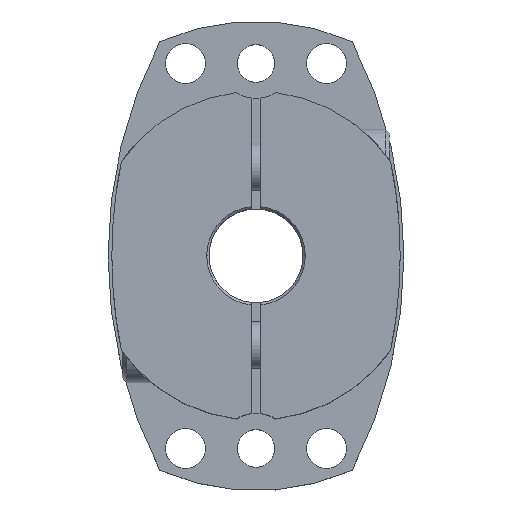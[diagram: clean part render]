
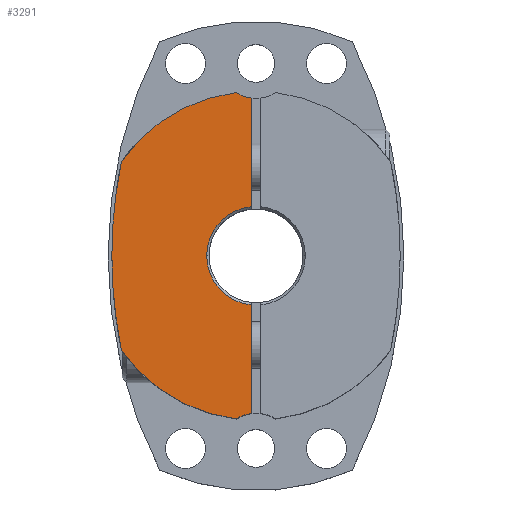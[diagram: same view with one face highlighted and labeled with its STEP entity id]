
A CAD part, top view. The second image highlights one B-rep face of the part: STEP entity #3291.
In plain terms, the highlighted planar face has unit normal (0, 0, 1).
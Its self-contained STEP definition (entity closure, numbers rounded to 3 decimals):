
#227=CARTESIAN_POINT('',(-10.5,0.,31.0));
#228=VERTEX_POINT('',#227);
#244=CARTESIAN_POINT('',(-1.0,10.452,31.0));
#245=VERTEX_POINT('',#244);
#259=CARTESIAN_POINT('',(0.0,0.0,31.0));
#260=DIRECTION('',(0.0,0.0,1.0));
#261=DIRECTION('',(-1.0,0.0,0.0));
#262=AXIS2_PLACEMENT_3D('',#259,#260,#261);
#263=CIRCLE('',#262,10.5);
#264=EDGE_CURVE('',#245,#228,#263,.T.);
#942=CARTESIAN_POINT('',(-30.7,0.,31.0));
#943=VERTEX_POINT('',#942);
#952=CARTESIAN_POINT('',(-28.638,20.121,31.0));
#953=VERTEX_POINT('',#952);
#954=CARTESIAN_POINT('',(68.5,0.,31.0));
#955=DIRECTION('',(0.0,0.0,-1.0));
#956=DIRECTION('',(1.0,0.0,0.0));
#957=AXIS2_PLACEMENT_3D('',#954,#955,#956);
#958=CIRCLE('',#957,99.2);
#959=EDGE_CURVE('',#943,#953,#958,.T.);
#2290=CARTESIAN_POINT('',(-28.638,-20.121,31.0));
#2291=VERTEX_POINT('',#2290);
#2298=CARTESIAN_POINT('',(68.5,0.,31.0));
#2299=DIRECTION('',(0.0,0.0,-1.0));
#2300=DIRECTION('',(1.0,0.0,0.0));
#2301=AXIS2_PLACEMENT_3D('',#2298,#2299,#2300);
#2302=CIRCLE('',#2301,99.2);
#2303=EDGE_CURVE('',#2291,#943,#2302,.T.);
#2593=CARTESIAN_POINT('',(-4.15,34.753,31.0));
#2594=VERTEX_POINT('',#2593);
#2595=CARTESIAN_POINT('',(0.,0.,31.0));
#2596=DIRECTION('',(0.0,0.0,-1.0));
#2597=DIRECTION('',(1.0,0.0,0.0));
#2598=AXIS2_PLACEMENT_3D('',#2595,#2596,#2597);
#2599=CIRCLE('',#2598,35.);
#2600=EDGE_CURVE('',#953,#2594,#2599,.T.);
#2936=CARTESIAN_POINT('',(-1.0,-10.452,31.0));
#2937=VERTEX_POINT('',#2936);
#2938=CARTESIAN_POINT('',(0.0,0.0,31.0));
#2939=DIRECTION('',(0.0,0.0,1.0));
#2940=DIRECTION('',(-1.0,0.0,0.0));
#2941=AXIS2_PLACEMENT_3D('',#2938,#2939,#2940);
#2942=CIRCLE('',#2941,10.5);
#2943=EDGE_CURVE('',#228,#2937,#2942,.T.);
#2968=CARTESIAN_POINT('',(-1.0,-33.567,31.0));
#2969=VERTEX_POINT('',#2968);
#2970=CARTESIAN_POINT('',(-1.0,-33.567,31.0));
#2971=DIRECTION('',(0.0,1.0,0.0));
#2972=VECTOR('',#2971,23.115);
#2973=LINE('',#2970,#2972);
#2974=EDGE_CURVE('',#2969,#2937,#2973,.T.);
#3049=CARTESIAN_POINT('',(-1.0,33.567,31.0));
#3050=VERTEX_POINT('',#3049);
#3057=CARTESIAN_POINT('',(-1.0,10.452,31.0));
#3058=DIRECTION('',(0.0,1.0,0.0));
#3059=VECTOR('',#3058,23.115);
#3060=LINE('',#3057,#3059);
#3061=EDGE_CURVE('',#245,#3050,#3060,.T.);
#3126=CARTESIAN_POINT('',(-4.15,-34.753,31.0));
#3127=VERTEX_POINT('',#3126);
#3128=CARTESIAN_POINT('',(0.,-41.,31.0));
#3129=DIRECTION('',(0.0,0.0,-1.0));
#3130=DIRECTION('',(1.0,0.0,0.0));
#3131=AXIS2_PLACEMENT_3D('',#3128,#3129,#3130);
#3132=CIRCLE('',#3131,7.5);
#3133=EDGE_CURVE('',#3127,#2969,#3132,.T.);
#3262=CARTESIAN_POINT('',(0.,0.,31.0));
#3263=DIRECTION('',(0.0,0.0,1.0));
#3264=DIRECTION('',(1.0,0.0,0.0));
#3265=AXIS2_PLACEMENT_3D('',#3262,#3263,#3264);
#3266=PLANE('',#3265);
#3267=ORIENTED_EDGE('',*,*,#264,.F.);
#3268=ORIENTED_EDGE('',*,*,#3061,.T.);
#3269=CARTESIAN_POINT('',(0.,41.,31.0));
#3270=DIRECTION('',(0.0,0.0,-1.0));
#3271=DIRECTION('',(1.0,0.0,0.0));
#3272=AXIS2_PLACEMENT_3D('',#3269,#3270,#3271);
#3273=CIRCLE('',#3272,7.5);
#3274=EDGE_CURVE('',#3050,#2594,#3273,.T.);
#3275=ORIENTED_EDGE('',*,*,#3274,.T.);
#3276=ORIENTED_EDGE('',*,*,#2600,.F.);
#3277=ORIENTED_EDGE('',*,*,#959,.F.);
#3278=ORIENTED_EDGE('',*,*,#2303,.F.);
#3279=CARTESIAN_POINT('',(0.,0.,31.0));
#3280=DIRECTION('',(0.0,0.0,-1.0));
#3281=DIRECTION('',(1.0,0.0,0.0));
#3282=AXIS2_PLACEMENT_3D('',#3279,#3280,#3281);
#3283=CIRCLE('',#3282,35.);
#3284=EDGE_CURVE('',#3127,#2291,#3283,.T.);
#3285=ORIENTED_EDGE('',*,*,#3284,.F.);
#3286=ORIENTED_EDGE('',*,*,#3133,.T.);
#3287=ORIENTED_EDGE('',*,*,#2974,.T.);
#3288=ORIENTED_EDGE('',*,*,#2943,.F.);
#3289=EDGE_LOOP('',(#3267,#3268,#3275,#3276,#3277,#3278,#3285,#3286,#3287,#3288));
#3290=FACE_OUTER_BOUND('',#3289,.T.);
#3291=ADVANCED_FACE('',(#3290),#3266,.T.);
